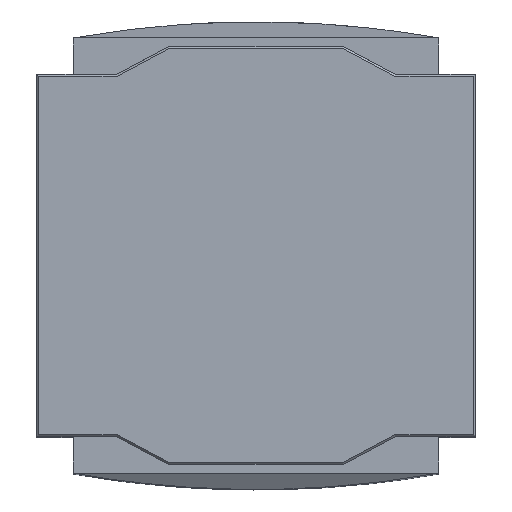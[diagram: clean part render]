
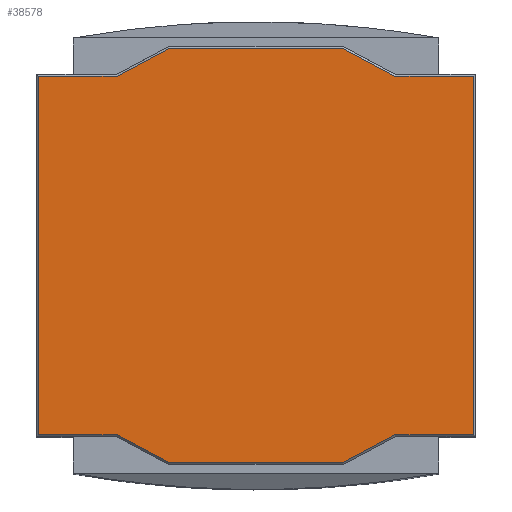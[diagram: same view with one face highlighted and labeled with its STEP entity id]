
A CAD part, top view. The second image highlights one B-rep face of the part: STEP entity #38578.
In plain terms, the highlighted planar face has unit normal (0, 0, 1).
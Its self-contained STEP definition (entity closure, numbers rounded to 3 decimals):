
#38243=CARTESIAN_POINT('',(-31.25,25.75,37.5));
#38244=VERTEX_POINT('',#38243);
#38251=CARTESIAN_POINT('',(-19.938,25.75,37.5));
#38252=VERTEX_POINT('',#38251);
#38253=CARTESIAN_POINT('',(-31.25,25.75,37.5));
#38254=DIRECTION('',(1.0,0.0,0.0));
#38255=VECTOR('',#38254,11.312);
#38256=LINE('',#38253,#38255);
#38257=EDGE_CURVE('',#38244,#38252,#38256,.T.);
#38275=CARTESIAN_POINT('',(-19.937,-25.75,37.5));
#38276=VERTEX_POINT('',#38275);
#38277=CARTESIAN_POINT('',(-31.25,-25.75,37.5));
#38278=VERTEX_POINT('',#38277);
#38279=CARTESIAN_POINT('',(-19.937,-25.75,37.5));
#38280=DIRECTION('',(-1.0,0.0,0.0));
#38281=VECTOR('',#38280,11.313);
#38282=LINE('',#38279,#38281);
#38283=EDGE_CURVE('',#38276,#38278,#38282,.T.);
#38307=CARTESIAN_POINT('',(-12.438,29.75,37.5));
#38308=VERTEX_POINT('',#38307);
#38309=CARTESIAN_POINT('',(-19.938,25.75,37.5));
#38310=DIRECTION('',(0.882,0.471,0.0));
#38311=VECTOR('',#38310,8.5);
#38312=LINE('',#38309,#38311);
#38313=EDGE_CURVE('',#38252,#38308,#38312,.T.);
#38331=CARTESIAN_POINT('',(12.438,29.75,37.5));
#38332=VERTEX_POINT('',#38331);
#38333=CARTESIAN_POINT('',(-12.438,29.75,37.5));
#38334=DIRECTION('',(1.0,0.0,0.0));
#38335=VECTOR('',#38334,24.875);
#38336=LINE('',#38333,#38335);
#38337=EDGE_CURVE('',#38308,#38332,#38336,.T.);
#38355=CARTESIAN_POINT('',(19.937,25.75,37.5));
#38356=VERTEX_POINT('',#38355);
#38357=CARTESIAN_POINT('',(31.25,25.75,37.5));
#38358=VERTEX_POINT('',#38357);
#38359=CARTESIAN_POINT('',(19.937,25.75,37.5));
#38360=DIRECTION('',(1.0,0.0,0.0));
#38361=VECTOR('',#38360,11.313);
#38362=LINE('',#38359,#38361);
#38363=EDGE_CURVE('',#38356,#38358,#38362,.T.);
#38387=CARTESIAN_POINT('',(31.25,-25.75,37.5));
#38388=VERTEX_POINT('',#38387);
#38410=CARTESIAN_POINT('',(31.25,25.75,37.5));
#38411=DIRECTION('',(0.0,-1.0,0.0));
#38412=VECTOR('',#38411,51.5);
#38413=LINE('',#38410,#38412);
#38414=EDGE_CURVE('',#38358,#38388,#38413,.T.);
#38430=CARTESIAN_POINT('',(19.937,-25.75,37.5));
#38431=VERTEX_POINT('',#38430);
#38432=CARTESIAN_POINT('',(31.25,-25.75,37.5));
#38433=DIRECTION('',(-1.0,0.0,0.0));
#38434=VECTOR('',#38433,11.313);
#38435=LINE('',#38432,#38434);
#38436=EDGE_CURVE('',#38388,#38431,#38435,.T.);
#38452=CARTESIAN_POINT('',(12.437,-29.75,37.5));
#38453=VERTEX_POINT('',#38452);
#38454=CARTESIAN_POINT('',(19.937,-25.75,37.5));
#38455=DIRECTION('',(-0.882,-0.471,0.0));
#38456=VECTOR('',#38455,8.5);
#38457=LINE('',#38454,#38456);
#38458=EDGE_CURVE('',#38431,#38453,#38457,.T.);
#38476=CARTESIAN_POINT('',(12.438,29.75,37.5));
#38477=DIRECTION('',(0.882,-0.471,0.0));
#38478=VECTOR('',#38477,8.5);
#38479=LINE('',#38476,#38478);
#38480=EDGE_CURVE('',#38332,#38356,#38479,.T.);
#38493=CARTESIAN_POINT('',(-12.437,-29.75,37.5));
#38494=VERTEX_POINT('',#38493);
#38495=CARTESIAN_POINT('',(12.437,-29.75,37.5));
#38496=DIRECTION('',(-1.0,0.0,0.0));
#38497=VECTOR('',#38496,24.875);
#38498=LINE('',#38495,#38497);
#38499=EDGE_CURVE('',#38453,#38494,#38498,.T.);
#38517=CARTESIAN_POINT('',(-12.437,-29.75,37.5));
#38518=DIRECTION('',(-0.882,0.471,0.0));
#38519=VECTOR('',#38518,8.5);
#38520=LINE('',#38517,#38519);
#38521=EDGE_CURVE('',#38494,#38276,#38520,.T.);
#38537=CARTESIAN_POINT('',(-31.25,-25.75,37.5));
#38538=DIRECTION('',(0.0,1.0,0.0));
#38539=VECTOR('',#38538,51.5);
#38540=LINE('',#38537,#38539);
#38541=EDGE_CURVE('',#38278,#38244,#38540,.T.);
#38559=CARTESIAN_POINT('',(0.,0.,37.5));
#38560=DIRECTION('',(0.0,0.0,1.0));
#38561=DIRECTION('',(1.0,0.0,0.0));
#38562=AXIS2_PLACEMENT_3D('',#38559,#38560,#38561);
#38563=PLANE('',#38562);
#38564=ORIENTED_EDGE('',*,*,#38363,.F.);
#38565=ORIENTED_EDGE('',*,*,#38480,.F.);
#38566=ORIENTED_EDGE('',*,*,#38337,.F.);
#38567=ORIENTED_EDGE('',*,*,#38313,.F.);
#38568=ORIENTED_EDGE('',*,*,#38257,.F.);
#38569=ORIENTED_EDGE('',*,*,#38541,.F.);
#38570=ORIENTED_EDGE('',*,*,#38283,.F.);
#38571=ORIENTED_EDGE('',*,*,#38521,.F.);
#38572=ORIENTED_EDGE('',*,*,#38499,.F.);
#38573=ORIENTED_EDGE('',*,*,#38458,.F.);
#38574=ORIENTED_EDGE('',*,*,#38436,.F.);
#38575=ORIENTED_EDGE('',*,*,#38414,.F.);
#38576=EDGE_LOOP('',(#38564,#38565,#38566,#38567,#38568,#38569,#38570,#38571,#38572,#38573,#38574,#38575));
#38577=FACE_OUTER_BOUND('',#38576,.T.);
#38578=ADVANCED_FACE('',(#38577),#38563,.T.);
